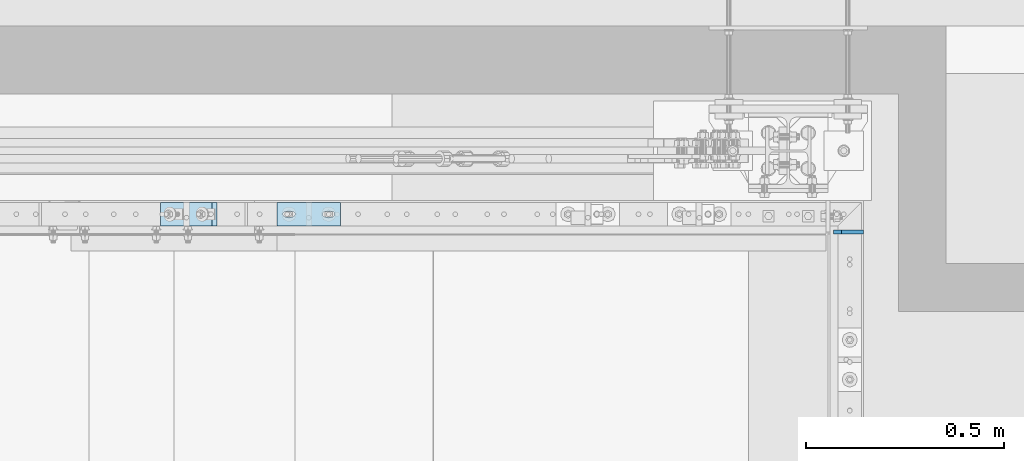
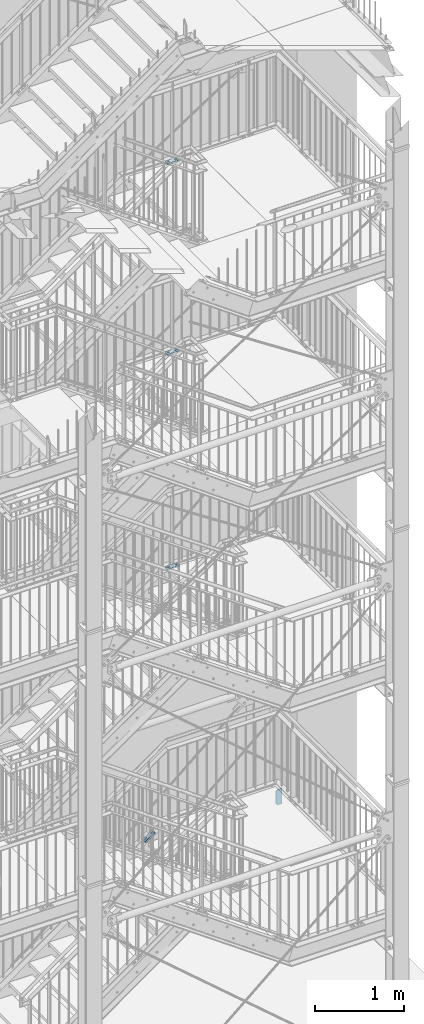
# One storey, part 208 of 825: 5 plates, 10 openings.
"""IFC2X3 building model written with IfcOpenShell, lengths in millimetres."""

from ifc_helpers import new_model, entity, si_unit, converted_unit, point, frame, frame_2d, origin, origin_with_axes, place, context, project, spatial, polyline, circle_curve, line_curve, trimmed, segment, composite_curve, outline, extrude, material, layer, layer_set, element, save


model = new_model("IFC2X3")

# Units and contexts
model_context = context("Model", 3, precision=1e-09, world=origin_with_axes())
ifc_project = project(units=[si_unit("LENGTHUNIT", "METRE", prefix="MILLI"), si_unit("AREAUNIT", "SQUARE_METRE"), si_unit("VOLUMEUNIT", "CUBIC_METRE"), converted_unit("PLANEANGLEUNIT", "DEGREE", entity("IfcPlaneAngleMeasure", 0.01745329), si_unit("PLANEANGLEUNIT", "RADIAN"), dimensions=[0, 0, 0, 0, 0, 0, 0])], contexts=[model_context])

# Site, building, storey
site_placement = place(None, origin_with_axes())
site = spatial("IfcSite", under=ifc_project, at=site_placement, Name="Cnopf'sche Kinderklinik", CompositionType="ELEMENT")
building_placement = place(site_placement, origin_with_axes())
building = spatial("IfcBuilding", under=site, at=building_placement, Name="Struktur 1", CompositionType="ELEMENT")
storey_placement = place(building_placement, origin_with_axes())
storey = spatial("IfcBuildingStorey", under=building, at=storey_placement, Name="Default Storey", CompositionType="ELEMENT", Elevation=0.0)

# Plate, openings
ifc_material = material(Name="S235JR")
ifc_layer_1 = layer(ifc_material, 20.0)
ifc_layer_set_1 = layer_set([ifc_layer_1], Name="S235JR")
plate_1_placement = place(None, frame((7424.541805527, 7386.736971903, 2112.71507889), z_axis=(-0.579973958, 0.0, 0.814635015), x_axis=(-0.814635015, 0.0, -0.579973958)))
plate_1 = element("IfcPlate", 1, at=plate_1_placement, inside=storey, material=ifc_layer_set_1, Name="Plate#502", ObjectType="Plate#502", context=model_context, shape_type="SweptSolid", body=[
    extrude(outline(polyline([(0.0, 0.0), (160.0, 0.0), (160.0, 60.0), (0.0, 60.0), (0.0, 0.0)])), origin_with_axes(), (0.0, 0.0, 1.0), 20.0),
])
opening_1_placement = place(plate_1_placement, frame((38.0, 37.001, 20.5), z_axis=(0.0, 0.0, 1.0), x_axis=(-1.0, 0.0, 0.0)))
element("IfcOpeningElement", 2, at=opening_1_placement, cuts=plate_1, ObjectType="Opening", context=model_context, shape_type="SweptSolid", body=[
    extrude(outline(composite_curve([segment(trimmed(line_curve((0.0, 0.0), (1.0, 0.0), 16.0), [point((0.0, 0.0))], [point((16.0, 0.0))], True, "CARTESIAN"), True, "CONTINUOUS"), segment(trimmed(circle_curve(frame_2d((16.0, 7.001), x_axis=(1.0, 0.0)), 7.001), [point((16.0, 0.0))], [point((16.0, 14.002))], True, "CARTESIAN"), True, "CONTINUOUS"), segment(trimmed(line_curve((16.0, 14.002), (-1.0, 0.0), 16.0), [point((16.0, 14.002))], [point((0.0, 14.002))], True, "CARTESIAN"), True, "CONTINUOUS"), segment(trimmed(circle_curve(frame_2d((0.0, 7.001), x_axis=(1.0, 0.0)), 7.001), [point((0.0, 14.002))], [point((0.0, 0.0))], True, "CARTESIAN"), True, "CONTINUOUS")], self_intersect=False)), origin(), (0.0, 0.0, -1.0), 21.0),
])
opening_2_placement = place(plate_1_placement, frame((138.0, 37.001, 20.5), z_axis=(0.0, 0.0, 1.0), x_axis=(-1.0, 0.0, 0.0)))
element("IfcOpeningElement", 3, at=opening_2_placement, cuts=plate_1, ObjectType="Opening", context=model_context, shape_type="SweptSolid", body=[
    extrude(outline(composite_curve([segment(trimmed(line_curve((0.0, 0.0), (1.0, 0.0), 16.0), [point((0.0, 0.0))], [point((16.0, 0.0))], True, "CARTESIAN"), True, "CONTINUOUS"), segment(trimmed(circle_curve(frame_2d((16.0, 7.001), x_axis=(1.0, 0.0)), 7.001), [point((16.0, 0.0))], [point((16.0, 14.002))], True, "CARTESIAN"), True, "CONTINUOUS"), segment(trimmed(line_curve((16.0, 14.002), (-1.0, 0.0), 16.0), [point((16.0, 14.002))], [point((0.0, 14.002))], True, "CARTESIAN"), True, "CONTINUOUS"), segment(trimmed(circle_curve(frame_2d((0.0, 7.001), x_axis=(1.0, 0.0)), 7.001), [point((0.0, 14.002))], [point((0.0, 0.0))], True, "CARTESIAN"), True, "CONTINUOUS")], self_intersect=False)), origin(), (0.0, 0.0, -1.0), 21.0),
])

plate_2_placement = place(None, frame((7736.713831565, 7386.736971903, 5674.8947367), z_axis=(0.0, 0.0, 1.0), x_axis=(-1.0, 0.0, 0.0)))
plate_2 = element("IfcPlate", 4, at=plate_2_placement, inside=storey, material=ifc_layer_set_1, Name="Plate#503", ObjectType="Plate#503", context=model_context, shape_type="SweptSolid", body=[
    extrude(outline(polyline([(0.0, 0.0), (160.0, 0.0), (160.0, 60.0), (0.0, 60.0), (0.0, 0.0)])), origin_with_axes(), (0.0, 0.0, 1.0), 20.0),
])
opening_3_placement = place(plate_2_placement, frame((38.0, 37.001, 20.5), z_axis=(0.0, 0.0, 1.0), x_axis=(-1.0, 0.0, 0.0)))
element("IfcOpeningElement", 5, at=opening_3_placement, cuts=plate_2, ObjectType="Opening", context=model_context, shape_type="SweptSolid", body=[
    extrude(outline(composite_curve([segment(trimmed(line_curve((0.0, 0.0), (1.0, 0.0), 16.0), [point((0.0, 0.0))], [point((16.0, 0.0))], True, "CARTESIAN"), True, "CONTINUOUS"), segment(trimmed(circle_curve(frame_2d((16.0, 7.001), x_axis=(1.0, 0.0)), 7.001), [point((16.0, 0.0))], [point((16.0, 14.002))], True, "CARTESIAN"), True, "CONTINUOUS"), segment(trimmed(line_curve((16.0, 14.002), (-1.0, 0.0), 16.0), [point((16.0, 14.002))], [point((0.0, 14.002))], True, "CARTESIAN"), True, "CONTINUOUS"), segment(trimmed(circle_curve(frame_2d((0.0, 7.001), x_axis=(1.0, 0.0)), 7.001), [point((0.0, 14.002))], [point((0.0, 0.0))], True, "CARTESIAN"), True, "CONTINUOUS")], self_intersect=False)), origin(), (0.0, 0.0, -1.0), 21.0),
])
opening_4_placement = place(plate_2_placement, frame((138.0, 37.001, 20.5), z_axis=(0.0, 0.0, 1.0), x_axis=(-1.0, 0.0, 0.0)))
element("IfcOpeningElement", 6, at=opening_4_placement, cuts=plate_2, ObjectType="Opening", context=model_context, shape_type="SweptSolid", body=[
    extrude(outline(composite_curve([segment(trimmed(line_curve((0.0, 0.0), (1.0, 0.0), 16.0), [point((0.0, 0.0))], [point((16.0, 0.0))], True, "CARTESIAN"), True, "CONTINUOUS"), segment(trimmed(circle_curve(frame_2d((16.0, 7.001), x_axis=(1.0, 0.0)), 7.001), [point((16.0, 0.0))], [point((16.0, 14.002))], True, "CARTESIAN"), True, "CONTINUOUS"), segment(trimmed(line_curve((16.0, 14.002), (-1.0, 0.0), 16.0), [point((16.0, 14.002))], [point((0.0, 14.002))], True, "CARTESIAN"), True, "CONTINUOUS"), segment(trimmed(circle_curve(frame_2d((0.0, 7.001), x_axis=(1.0, 0.0)), 7.001), [point((0.0, 14.002))], [point((0.0, 0.0))], True, "CARTESIAN"), True, "CONTINUOUS")], self_intersect=False)), origin(), (0.0, 0.0, -1.0), 21.0),
])

plate_3_placement = place(None, frame((7736.713831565, 7386.736971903, 8636.0), z_axis=(0.0, 0.0, 1.0), x_axis=(-1.0, 0.0, 0.0)))
plate_3 = element("IfcPlate", 7, at=plate_3_placement, inside=storey, material=ifc_layer_set_1, Name="Plate#503", ObjectType="Plate#503", context=model_context, shape_type="SweptSolid", body=[
    extrude(outline(polyline([(0.0, 0.0), (160.0, 0.0), (160.0, 60.0), (0.0, 60.0), (0.0, 0.0)])), origin_with_axes(), (0.0, 0.0, 1.0), 20.0),
])
opening_5_placement = place(plate_3_placement, frame((38.0, 37.001, 20.5), z_axis=(0.0, 0.0, 1.0), x_axis=(-1.0, 0.0, 0.0)))
element("IfcOpeningElement", 8, at=opening_5_placement, cuts=plate_3, ObjectType="Opening", context=model_context, shape_type="SweptSolid", body=[
    extrude(outline(composite_curve([segment(trimmed(line_curve((0.0, 0.0), (1.0, 0.0), 16.0), [point((0.0, 0.0))], [point((16.0, 0.0))], True, "CARTESIAN"), True, "CONTINUOUS"), segment(trimmed(circle_curve(frame_2d((16.0, 7.001), x_axis=(1.0, 0.0)), 7.001), [point((16.0, 0.0))], [point((16.0, 14.002))], True, "CARTESIAN"), True, "CONTINUOUS"), segment(trimmed(line_curve((16.0, 14.002), (-1.0, 0.0), 16.0), [point((16.0, 14.002))], [point((0.0, 14.002))], True, "CARTESIAN"), True, "CONTINUOUS"), segment(trimmed(circle_curve(frame_2d((0.0, 7.001), x_axis=(1.0, 0.0)), 7.001), [point((0.0, 14.002))], [point((0.0, 0.0))], True, "CARTESIAN"), True, "CONTINUOUS")], self_intersect=False)), origin(), (0.0, 0.0, -1.0), 21.0),
])
opening_6_placement = place(plate_3_placement, frame((138.0, 37.001, 20.5), z_axis=(0.0, 0.0, 1.0), x_axis=(-1.0, 0.0, 0.0)))
element("IfcOpeningElement", 9, at=opening_6_placement, cuts=plate_3, ObjectType="Opening", context=model_context, shape_type="SweptSolid", body=[
    extrude(outline(composite_curve([segment(trimmed(line_curve((0.0, 0.0), (1.0, 0.0), 16.0), [point((0.0, 0.0))], [point((16.0, 0.0))], True, "CARTESIAN"), True, "CONTINUOUS"), segment(trimmed(circle_curve(frame_2d((16.0, 7.001), x_axis=(1.0, 0.0)), 7.001), [point((16.0, 0.0))], [point((16.0, 14.002))], True, "CARTESIAN"), True, "CONTINUOUS"), segment(trimmed(line_curve((16.0, 14.002), (-1.0, 0.0), 16.0), [point((16.0, 14.002))], [point((0.0, 14.002))], True, "CARTESIAN"), True, "CONTINUOUS"), segment(trimmed(circle_curve(frame_2d((0.0, 7.001), x_axis=(1.0, 0.0)), 7.001), [point((0.0, 14.002))], [point((0.0, 0.0))], True, "CARTESIAN"), True, "CONTINUOUS")], self_intersect=False)), origin(), (0.0, 0.0, -1.0), 21.0),
])

plate_4_placement = place(None, frame((7736.713831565, 7386.736971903, 11265.5000003), z_axis=(0.0, 0.0, 1.0), x_axis=(-1.0, 0.0, 0.0)))
plate_4 = element("IfcPlate", 10, at=plate_4_placement, inside=storey, material=ifc_layer_set_1, Name="Plate#503", ObjectType="Plate#503", context=model_context, shape_type="SweptSolid", body=[
    extrude(outline(polyline([(0.0, 0.0), (160.0, 0.0), (160.0, 60.0), (0.0, 60.0), (0.0, 0.0)])), origin_with_axes(), (0.0, 0.0, 1.0), 20.0),
])
opening_7_placement = place(plate_4_placement, frame((38.0, 37.001, 20.5), z_axis=(0.0, 0.0, 1.0), x_axis=(-1.0, 0.0, 0.0)))
element("IfcOpeningElement", 11, at=opening_7_placement, cuts=plate_4, ObjectType="Opening", context=model_context, shape_type="SweptSolid", body=[
    extrude(outline(composite_curve([segment(trimmed(line_curve((0.0, 0.0), (1.0, 0.0), 16.0), [point((0.0, 0.0))], [point((16.0, 0.0))], True, "CARTESIAN"), True, "CONTINUOUS"), segment(trimmed(circle_curve(frame_2d((16.0, 7.001), x_axis=(1.0, 0.0)), 7.001), [point((16.0, 0.0))], [point((16.0, 14.002))], True, "CARTESIAN"), True, "CONTINUOUS"), segment(trimmed(line_curve((16.0, 14.002), (-1.0, 0.0), 16.0), [point((16.0, 14.002))], [point((0.0, 14.002))], True, "CARTESIAN"), True, "CONTINUOUS"), segment(trimmed(circle_curve(frame_2d((0.0, 7.001), x_axis=(1.0, 0.0)), 7.001), [point((0.0, 14.002))], [point((0.0, 0.0))], True, "CARTESIAN"), True, "CONTINUOUS")], self_intersect=False)), origin(), (0.0, 0.0, -1.0), 21.0),
])
opening_8_placement = place(plate_4_placement, frame((138.0, 37.001, 20.5), z_axis=(0.0, 0.0, 1.0), x_axis=(-1.0, 0.0, 0.0)))
element("IfcOpeningElement", 12, at=opening_8_placement, cuts=plate_4, ObjectType="Opening", context=model_context, shape_type="SweptSolid", body=[
    extrude(outline(composite_curve([segment(trimmed(line_curve((0.0, 0.0), (1.0, 0.0), 16.0), [point((0.0, 0.0))], [point((16.0, 0.0))], True, "CARTESIAN"), True, "CONTINUOUS"), segment(trimmed(circle_curve(frame_2d((16.0, 7.001), x_axis=(1.0, 0.0)), 7.001), [point((16.0, 0.0))], [point((16.0, 14.002))], True, "CARTESIAN"), True, "CONTINUOUS"), segment(trimmed(line_curve((16.0, 14.002), (-1.0, 0.0), 16.0), [point((16.0, 14.002))], [point((0.0, 14.002))], True, "CARTESIAN"), True, "CONTINUOUS"), segment(trimmed(circle_curve(frame_2d((0.0, 7.001), x_axis=(1.0, 0.0)), 7.001), [point((0.0, 14.002))], [point((0.0, 0.0))], True, "CARTESIAN"), True, "CONTINUOUS")], self_intersect=False)), origin(), (0.0, 0.0, -1.0), 21.0),
])

ifc_layer_2 = layer(ifc_material, 10.0)
ifc_layer_set_2 = layer_set([ifc_layer_2], Name="S235JR")
plate_5_placement = place(None, frame((8981.213402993, 7306.736971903, 2163.907793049), z_axis=(0.0, 1.0, 0.0), x_axis=(0.996815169, 0.0, 0.079746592)))
plate_5 = element("IfcPlate", 13, at=plate_5_placement, inside=storey, material=ifc_layer_set_2, Name="Stiffener#1", ObjectType="Stiffener#1", context=model_context, shape_type="SweptSolid", body=[
    extrude(outline(polyline([(0.0, 0.0), (75.239625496, 0.0), (57.877952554, 217.017159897), (-16.404697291, 205.05517107), (0.0, 0.0)])), origin_with_axes(), (0.0, 0.0, 1.0), 10.0),
])
opening_9_placement = place(plate_5_placement, frame((0.0, 0.0, -0.01), z_axis=(0.0, 0.0, 1.0), x_axis=(1.0, 0.0, 0.0)))
element("IfcOpeningElement", 14, at=opening_9_placement, cuts=plate_5, ObjectType="Opening", context=model_context, shape_type="SweptSolid", body=[
    extrude(outline(polyline([(-16.404697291, 205.05517107), (-14.809765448, 185.118867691), (3.34092195, 208.23487558), (-16.404697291, 205.05517107)])), origin(), (0.0, 0.0, 1.0), 10.02),
])
opening_10_placement = place(plate_5_placement, frame((0.0, 0.0, -0.01), z_axis=(0.0, 0.0, 1.0), x_axis=(1.0, 0.0, 0.0)))
element("IfcOpeningElement", 15, at=opening_10_placement, cuts=plate_5, ObjectType="Opening", context=model_context, shape_type="SweptSolid", body=[
    extrude(outline(polyline([(0.0, 0.0), (20.0, 0.0), (-1.594931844, 19.936303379), (0.0, 0.0)])), origin(), (0.0, 0.0, 1.0), 10.02),
])

save(model, "model.ifc")
